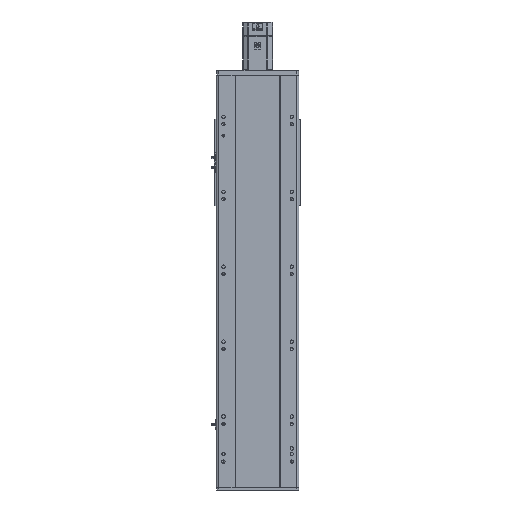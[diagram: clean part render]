
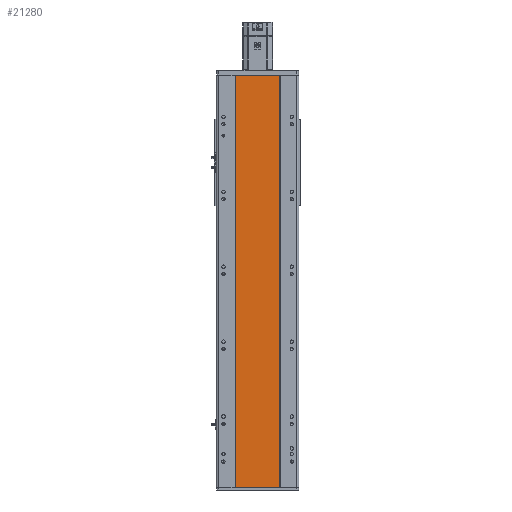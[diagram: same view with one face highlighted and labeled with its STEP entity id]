
A CAD part, front view. The second image highlights one B-rep face of the part: STEP entity #21280.
In plain terms, the highlighted planar face has unit normal (0, -1, 0).
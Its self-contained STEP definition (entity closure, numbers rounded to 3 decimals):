
#58 = CARTESIAN_POINT ( 'NONE',  ( 59., 1., 550.5 ) ) ;
#1199 = VECTOR ( 'NONE', #33283, 1000. ) ;
#2542 = VERTEX_POINT ( 'NONE', #33909 ) ;
#4631 = PLANE ( 'NONE',  #34397 ) ;
#5455 = VECTOR ( 'NONE', #8077, 1000. ) ;
#5643 = LINE ( 'NONE', #16001, #20003 ) ;
#6939 = DIRECTION ( 'NONE',  ( 0., 0., -1. ) ) ;
#7230 = DIRECTION ( 'NONE',  ( -1., 0., 0. ) ) ;
#7391 = EDGE_CURVE ( 'NONE', #22128, #2542, #29140, .T. ) ;
#7737 = ORIENTED_EDGE ( 'NONE', *, *, #35960, .F. ) ;
#8077 = DIRECTION ( 'NONE',  ( 1., 0., 0. ) ) ;
#8152 = VERTEX_POINT ( 'NONE', #37793 ) ;
#12710 = ORIENTED_EDGE ( 'NONE', *, *, #20370, .T. ) ;
#13185 = VERTEX_POINT ( 'NONE', #58 ) ;
#13756 = ORIENTED_EDGE ( 'NONE', *, *, #7391, .T. ) ;
#14857 = VECTOR ( 'NONE', #36703, 1000. ) ;
#16001 = CARTESIAN_POINT ( 'NONE',  ( -59., 1., 550.5 ) ) ;
#16161 = DIRECTION ( 'NONE',  ( 0., 1., 0. ) ) ;
#17197 = EDGE_CURVE ( 'NONE', #8152, #13185, #37779, .T. ) ;
#19530 = CARTESIAN_POINT ( 'NONE',  ( -59., 1., 550.5 ) ) ;
#20003 = VECTOR ( 'NONE', #6939, 1000. ) ;
#20370 = EDGE_CURVE ( 'NONE', #8152, #22128, #5643, .T. ) ;
#21280 = ADVANCED_FACE ( 'NONE', ( #32416 ), #4631, .F. ) ;
#22128 = VERTEX_POINT ( 'NONE', #37705 ) ;
#26170 = LINE ( 'NONE', #27475, #1199 ) ;
#27475 = CARTESIAN_POINT ( 'NONE',  ( 59., 1., 550.5 ) ) ;
#28112 = ORIENTED_EDGE ( 'NONE', *, *, #17197, .F. ) ;
#29140 = LINE ( 'NONE', #36569, #14857 ) ;
#32416 = FACE_OUTER_BOUND ( 'NONE', #37763, .T. ) ;
#33283 = DIRECTION ( 'NONE',  ( 0., 0., -1. ) ) ;
#33909 = CARTESIAN_POINT ( 'NONE',  ( 59., 1., -550.5 ) ) ;
#34397 = AXIS2_PLACEMENT_3D ( 'NONE', #19530, #16161, #7230 ) ;
#35960 = EDGE_CURVE ( 'NONE', #13185, #2542, #26170, .T. ) ;
#36569 = CARTESIAN_POINT ( 'NONE',  ( -59., 1., -550.5 ) ) ;
#36703 = DIRECTION ( 'NONE',  ( 1., 0., 0. ) ) ;
#37705 = CARTESIAN_POINT ( 'NONE',  ( -59., 1., -550.5 ) ) ;
#37749 = CARTESIAN_POINT ( 'NONE',  ( -59., 1., 550.5 ) ) ;
#37763 = EDGE_LOOP ( 'NONE', ( #13756, #7737, #28112, #12710 ) ) ;
#37779 = LINE ( 'NONE', #37749, #5455 ) ;
#37793 = CARTESIAN_POINT ( 'NONE',  ( -59., 1., 550.5 ) ) ;
